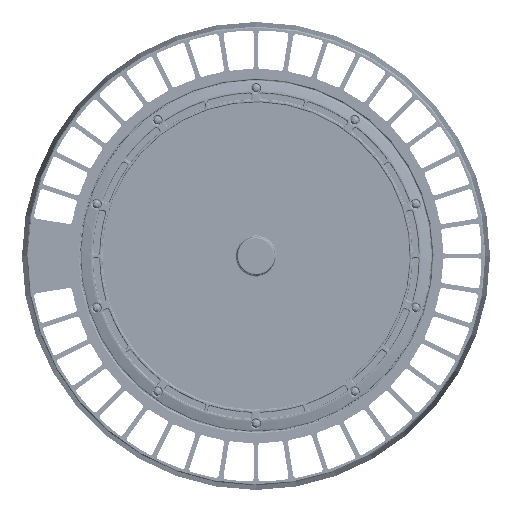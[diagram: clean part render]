
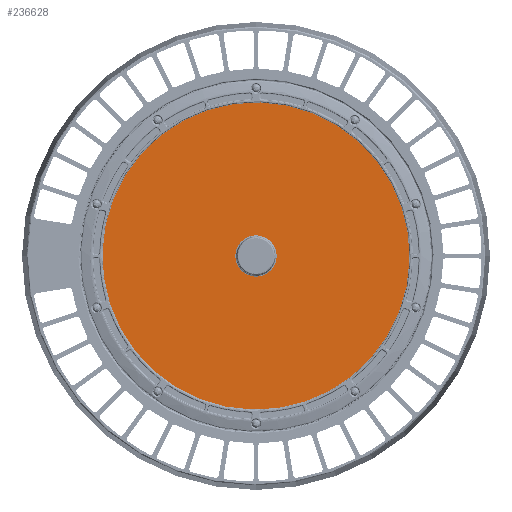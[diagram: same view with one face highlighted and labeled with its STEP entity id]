
A CAD part, front view. The second image highlights one B-rep face of the part: STEP entity #236628.
In plain terms, the highlighted planar face has unit normal (0, -1, 0) as drawn and (0, 0, 1) by its records, which use the part's own axes.
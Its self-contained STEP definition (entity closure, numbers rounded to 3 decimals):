
#181075=CARTESIAN_POINT('',(0.,0.,6.));
#181076=DIRECTION('',(0.,0.,-1.));
#181077=DIRECTION('',(-1.,0.,0.));
#181078=AXIS2_PLACEMENT_3D('',#181075,#181076,#181077);
#181080=CARTESIAN_POINT('',(0.,0.,6.));
#181081=DIRECTION('',(0.,0.,-1.));
#181082=DIRECTION('',(1.,0.008,0.));
#181083=AXIS2_PLACEMENT_3D('',#181080,#181081,#181082);
#181085=CARTESIAN_POINT('',(0.,0.,6.));
#181086=DIRECTION('',(0.,0.,1.));
#181087=DIRECTION('',(-1.,0.,0.));
#181088=AXIS2_PLACEMENT_3D('',#181085,#181086,#181087);
#181090=CARTESIAN_POINT('',(0.,0.,6.));
#181091=DIRECTION('',(0.,0.,1.));
#181092=DIRECTION('',(0.998,-0.063,0.));
#181093=AXIS2_PLACEMENT_3D('',#181090,#181091,#181092);
#181095=CARTESIAN_POINT('',(0.,0.,6.));
#181096=DIRECTION('',(0.,0.,1.));
#181097=DIRECTION('',(1.,0.,0.));
#181098=AXIS2_PLACEMENT_3D('',#181095,#181096,#181097);
#181100=CARTESIAN_POINT('',(0.,0.,6.));
#181101=DIRECTION('',(0.,0.,1.));
#181102=DIRECTION('',(-0.998,0.062,0.));
#181103=AXIS2_PLACEMENT_3D('',#181100,#181101,#181102);
#181105=CARTESIAN_POINT('',(0.,0.,6.));
#181106=DIRECTION('',(0.,0.,1.));
#181107=DIRECTION('',(-1.,0.,0.));
#181108=AXIS2_PLACEMENT_3D('',#181105,#181106,#181107);
#185994=CARTESIAN_POINT('',(115.845,0.89,6.));
#185995=CARTESIAN_POINT('',(-115.845,-0.89,6.));
#185996=VERTEX_POINT('',#185994);
#185997=VERTEX_POINT('',#185995);
#185998=CARTESIAN_POINT('',(-115.848,0.,6.));
#185999=VERTEX_POINT('',#185998);
#186000=CARTESIAN_POINT('',(-15.557,0.,6.));
#186001=CARTESIAN_POINT('',(15.527,-0.973,6.));
#186002=VERTEX_POINT('',#186000);
#186003=VERTEX_POINT('',#186001);
#186004=CARTESIAN_POINT('',(15.557,0.,6.));
#186005=VERTEX_POINT('',#186004);
#186006=CARTESIAN_POINT('',(-15.527,0.964,6.));
#186007=VERTEX_POINT('',#186006);
#236606=CARTESIAN_POINT('',(0.,0.,6.));
#236607=DIRECTION('',(0.,0.,1.));
#236608=DIRECTION('',(-1.,0.,0.));
#236609=AXIS2_PLACEMENT_3D('',#236606,#236607,#236608);
#236610=PLANE('',#236609);
#236612=ORIENTED_EDGE('',*,*,#236611,.F.);
#236614=ORIENTED_EDGE('',*,*,#236613,.T.);
#236615=ORIENTED_EDGE('',*,*,#236596,.T.);
#236616=EDGE_LOOP('',(#236612,#236614,#236615));
#236617=FACE_OUTER_BOUND('',#236616,.F.);
#236619=ORIENTED_EDGE('',*,*,#236618,.T.);
#236621=ORIENTED_EDGE('',*,*,#236620,.T.);
#236623=ORIENTED_EDGE('',*,*,#236622,.T.);
#236625=ORIENTED_EDGE('',*,*,#236624,.T.);
#236626=EDGE_LOOP('',(#236619,#236621,#236623,#236625));
#236627=FACE_BOUND('',#236626,.F.);
#236628=ADVANCED_FACE('',(#236617,#236627),#236610,.T.);
#181079=CIRCLE('',#181078,115.848);
#181084=CIRCLE('',#181083,115.848);
#181089=CIRCLE('',#181088,15.557);
#181094=CIRCLE('',#181093,15.557);
#181099=CIRCLE('',#181098,15.557);
#181104=CIRCLE('',#181103,15.557);
#181109=CIRCLE('',#181108,115.848);
#236596=EDGE_CURVE('',#185996,#185997,#181084,.T.);
#236611=EDGE_CURVE('',#185999,#185997,#181109,.T.);
#236613=EDGE_CURVE('',#185999,#185996,#181079,.T.);
#236618=EDGE_CURVE('',#186002,#186003,#181089,.T.);
#236620=EDGE_CURVE('',#186003,#186005,#181094,.T.);
#236622=EDGE_CURVE('',#186005,#186007,#181099,.T.);
#236624=EDGE_CURVE('',#186007,#186002,#181104,.T.);
